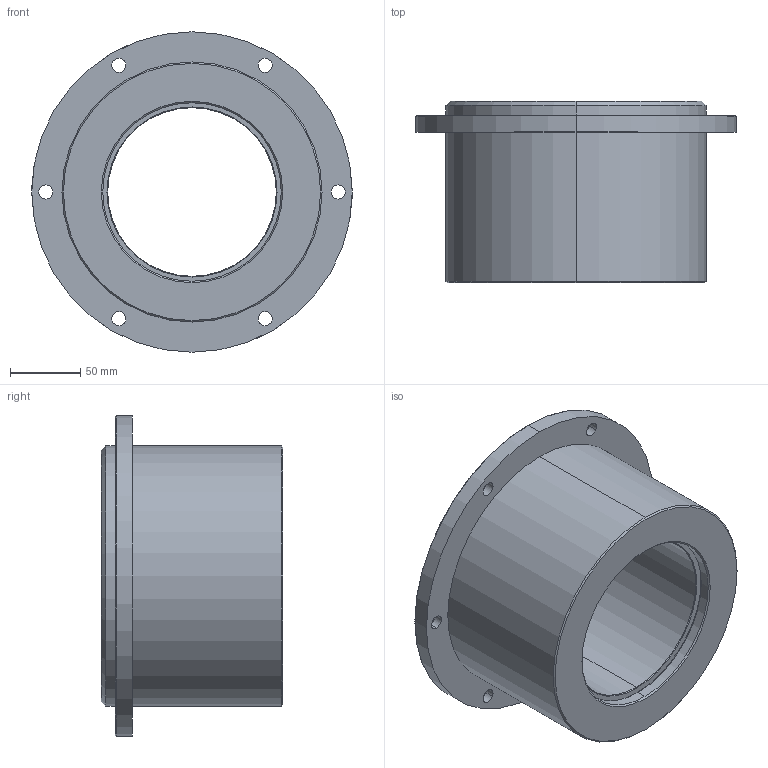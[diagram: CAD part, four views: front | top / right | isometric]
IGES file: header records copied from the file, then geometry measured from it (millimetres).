
Start section: 3D InterOp IGES (Version 20 0 1), Spatial Corp. Copyright (c) 1999-2007.
Global section: file name: 10.13.12.igs; native system: Spatial Corp.; preprocessor: 3D InterOp GENERIC/IGES 3.0; author: Noname; organization: Noname; date: 20111110.165359; units: metre
Bounding box: 228 x 129 x 228 mm (x, y, z)
Surface area: 298140.2 mm2 (no closed solid volume)
Topology: 0 solids, 0 shells, 91 faces, 2644 edges, 4456 vertices
Faces by surface type: revolution 77, extrusion 14
